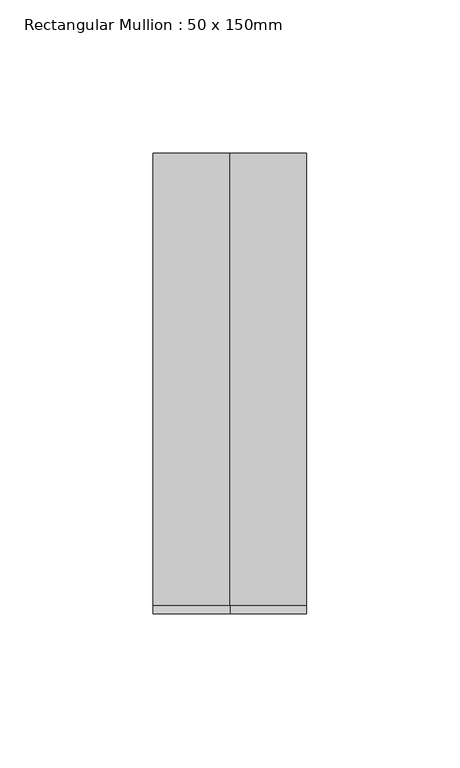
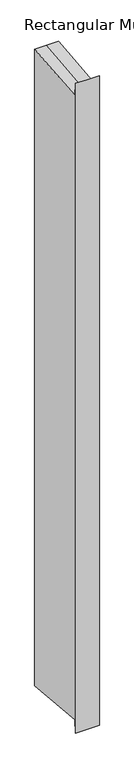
"""IFC4 building model written with IfcOpenShell, lengths in millimetres: member geometry, Rectangular Mullion : 50 x 150mm."""

from ifc_helpers import new_model, si_unit, origin, place, context, project, spatial, faceted_brep, source, transform, mapped, element, save


def rectangular_mullion_50_x_150mm_cfe09282(model_context):
    return source(origin(), model_context, "Body", "Brep", [
        faceted_brep([(-25.0, 75.0, 7.011094), (0.0, 75.0, 7.011094), (25.0, 75.0, 7.011094), (25.0, 75.0, -1415.1576008), (0.0, 75.0, -1415.1576008), (-25.0, 75.0, -1415.1576008), (-25.0, -75.0, 21.4461925), (-25.0, -72.3000691, -6.9796812), (-25.0, -72.3000691, -1401.1668256), (-25.0, -75.0, -1429.5926993), (25.0, -75.0, 21.4461925), (0.0, -75.0, 21.4461925), (0.0, -75.0, -1429.5926993), (25.0, -75.0, -1429.5926993), (25.0, -72.3000691, -6.9796812), (25.0, -72.3000691, -1401.1668256), (0.0, -72.3000691, -6.9796812), (0.0, -72.3000691, -1401.1668256)], [[[0, 1, 2, 3, 4, 5]], [[6, 7, 0, 5, 8, 9]], [[10, 11, 6, 9, 12, 13]], [[2, 14, 10, 13, 15, 3]], [[2, 1, 16, 14]], [[1, 0, 7, 16]], [[7, 6, 11, 16]], [[11, 10, 14, 16]], [[3, 15, 17, 4]], [[15, 13, 12, 17]], [[12, 9, 8, 17]], [[8, 5, 4, 17]]]),
    ])


if __name__ == "__main__":
    model = new_model("IFC4")
    model_context = context("Model", 3, world=origin())
    ifc_project = project(units=[si_unit("LENGTHUNIT", "METRE", prefix="MILLI")], contexts=[model_context])
    site = spatial("IfcSite", under=ifc_project)
    building = spatial("IfcBuilding", under=site)
    placement = place(None, origin())
    rectangular_mullion_50_x_150mm_shape = rectangular_mullion_50_x_150mm_cfe09282(model_context)
    element("IfcMember", 1, ObjectType="Rectangular Mullion : 50 x 150mm", at=placement, inside=building, context=model_context, shape_type="MappedRepresentation", body=[
        mapped(rectangular_mullion_50_x_150mm_shape, transform((0.0, 0.0, 0.0), x_axis=(1.0, 0.0, 0.0), y_axis=(0.0, 1.0, 0.0), z_axis=(0.0, 0.0, 1.0))),
    ])
    save(model, "model.ifc")
